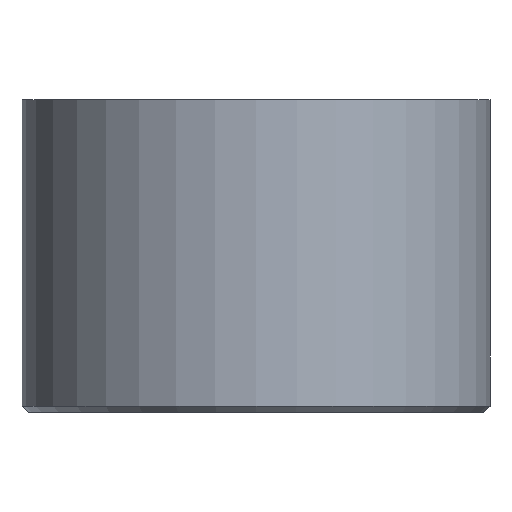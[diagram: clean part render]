
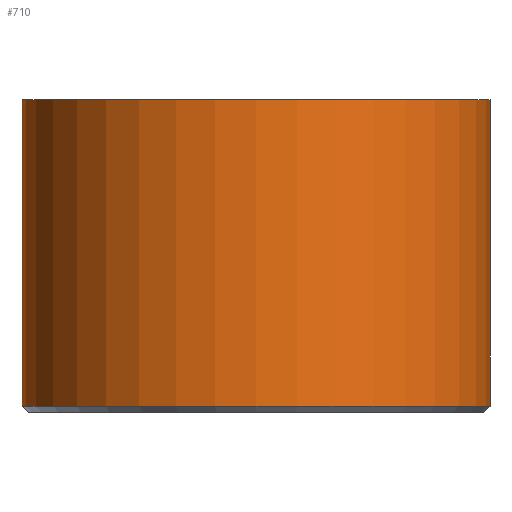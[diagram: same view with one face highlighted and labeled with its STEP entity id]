
A CAD part, front view. The second image highlights one B-rep face of the part: STEP entity #710.
In plain terms, the highlighted cylindrical face has radius 9.506 mm (diameter 19.012 mm), a partial arc.
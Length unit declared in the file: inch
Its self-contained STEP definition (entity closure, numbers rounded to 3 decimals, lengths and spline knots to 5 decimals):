
#10 = CARTESIAN_POINT ( 'NONE',  ( -0.37425, 0., 0.305 ) ) ;
#17 = CARTESIAN_POINT ( 'NONE',  ( 0., 0., 0.305 ) ) ;
#39 = LINE ( 'NONE', #677, #100 ) ;
#64 = ORIENTED_EDGE ( 'NONE', *, *, #533, .T. ) ;
#84 = AXIS2_PLACEMENT_3D ( 'NONE', #672, #629, #513 ) ;
#91 = CIRCLE ( 'NONE', #84, 0.37425 ) ;
#100 = VECTOR ( 'NONE', #288, 39.37008 ) ;
#102 = ORIENTED_EDGE ( 'NONE', *, *, #462, .F. ) ;
#107 = VERTEX_POINT ( 'NONE', #109 ) ;
#109 = CARTESIAN_POINT ( 'NONE',  ( 0.37425, 0., -0.185 ) ) ;
#136 = VERTEX_POINT ( 'NONE', #496 ) ;
#145 = CARTESIAN_POINT ( 'NONE',  ( 0., 0., 0.305 ) ) ;
#154 = ORIENTED_EDGE ( 'NONE', *, *, #248, .T. ) ;
#157 = CYLINDRICAL_SURFACE ( 'NONE', #440, 0.37425 ) ;
#172 = EDGE_CURVE ( 'NONE', #484, #107, #389, .T. ) ;
#205 = DIRECTION ( 'NONE',  ( 1., 0., 0. ) ) ;
#208 = VECTOR ( 'NONE', #491, 39.37008 ) ;
#221 = VERTEX_POINT ( 'NONE', #10 ) ;
#227 = CARTESIAN_POINT ( 'NONE',  ( 0.37425, 0., 0.305 ) ) ;
#228 = FACE_OUTER_BOUND ( 'NONE', #551, .T. ) ;
#243 = DIRECTION ( 'NONE',  ( -1., 0., 0. ) ) ;
#248 = EDGE_CURVE ( 'NONE', #136, #107, #91, .T. ) ;
#288 = DIRECTION ( 'NONE',  ( 0., 0., -1. ) ) ;
#343 = ORIENTED_EDGE ( 'NONE', *, *, #172, .F. ) ;
#389 = LINE ( 'NONE', #227, #208 ) ;
#440 = AXIS2_PLACEMENT_3D ( 'NONE', #17, #574, #243 ) ;
#446 = AXIS2_PLACEMENT_3D ( 'NONE', #145, #532, #205 ) ;
#462 = EDGE_CURVE ( 'NONE', #221, #484, #722, .T. ) ;
#484 = VERTEX_POINT ( 'NONE', #500 ) ;
#491 = DIRECTION ( 'NONE',  ( 0., 0., -1. ) ) ;
#496 = CARTESIAN_POINT ( 'NONE',  ( -0.37425, 0., -0.185 ) ) ;
#500 = CARTESIAN_POINT ( 'NONE',  ( 0.37425, 0., 0.305 ) ) ;
#513 = DIRECTION ( 'NONE',  ( 1., 0., 0. ) ) ;
#532 = DIRECTION ( 'NONE',  ( 0., 0., 1. ) ) ;
#533 = EDGE_CURVE ( 'NONE', #221, #136, #39, .T. ) ;
#551 = EDGE_LOOP ( 'NONE', ( #343, #102, #64, #154 ) ) ;
#574 = DIRECTION ( 'NONE',  ( 0., 0., -1. ) ) ;
#629 = DIRECTION ( 'NONE',  ( 0., 0., 1. ) ) ;
#672 = CARTESIAN_POINT ( 'NONE',  ( 0., 0., -0.185 ) ) ;
#677 = CARTESIAN_POINT ( 'NONE',  ( -0.37425, 0., 0.305 ) ) ;
#710 = ADVANCED_FACE ( 'NONE', ( #228 ), #157, .T. ) ;
#722 = CIRCLE ( 'NONE', #446, 0.37425 ) ;
